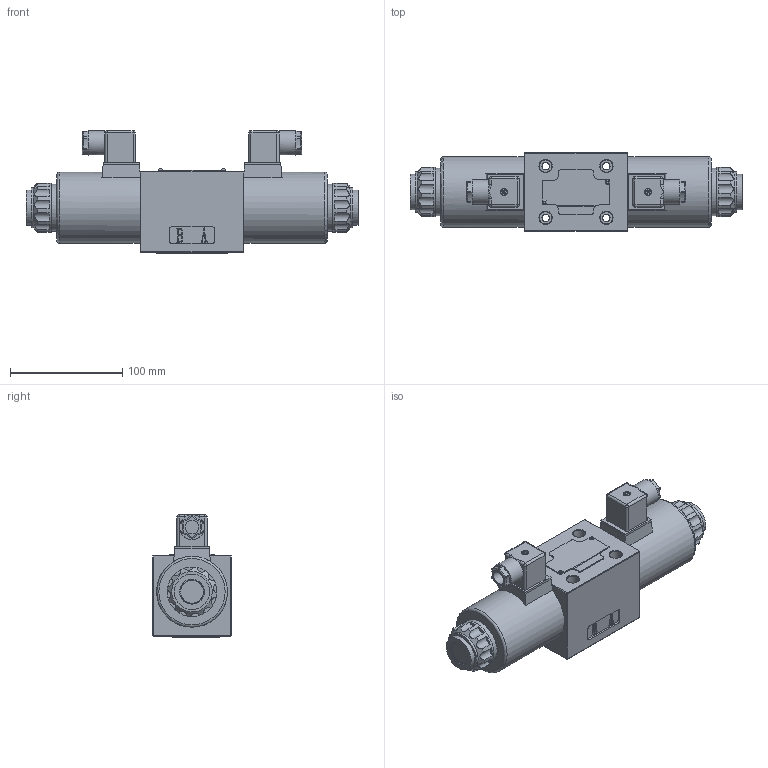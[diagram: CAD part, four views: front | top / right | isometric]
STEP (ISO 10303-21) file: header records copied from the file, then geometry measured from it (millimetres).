
FILE_DESCRIPTION(/* description */ (''),/* implementation_level */ '2;1');
FILE_NAME(/* name */ '4WE10-3XJ直流电磁阀（三位阀）.prt.stp',/* time_stamp */ '2022-03-30T19:33:56+08:00',/* author */ (''),/* organization */ (''),/* preprocessor_version */ 'ST-DEVELOPER v16.7',/* originating_system */ 'SIEMENS PLM Software NX 12.0',/* authorisation */ '');
FILE_SCHEMA (('AUTOMOTIVE_DESIGN { 1 0 10303 214 3 1 1 1 }'));
Products named in the file (1): 4WE10-3XJ直流电磁阀（三位阀）
Bounding box: 295.4 x 70 x 109 mm (x, y, z)
Volume: 681176.9 mm3; surface area: 178092.1 mm2
Topology: 21 solids, 31 shells, 1062 faces, 2720 edges, 1752 vertices
Faces by surface type: plane 582, cylinder 350, bspline 39, cone 34, torus 32, sphere 20, extrusion 5
Full cylindrical faces by diameter (mm): 1.8 x4, 1.9 x2, 2.55 x38, 3 x80, 3.5 x2, 3.6 x6, 5 x2, 6 x4, 6.5 x2, 6.6 x4, 11 x4, 12.085 x2, 15.7 x5, 16.5 x2, 17 x2, 21 x4, 21.4 x2, 22 x2, 24 x2, 31.5 x6, 33 x2, 36 x2, 42 x2, 44 x2, 63 x2
Entity records: 69095 total; most frequent: CARTESIAN_POINT 45247, ORIENTED_EDGE 4324, DIRECTION 4295, EDGE_CURVE 2162, VERTEX_POINT 1469, VECTOR 1441, LINE 1436, AXIS2_PLACEMENT_3D 1427
